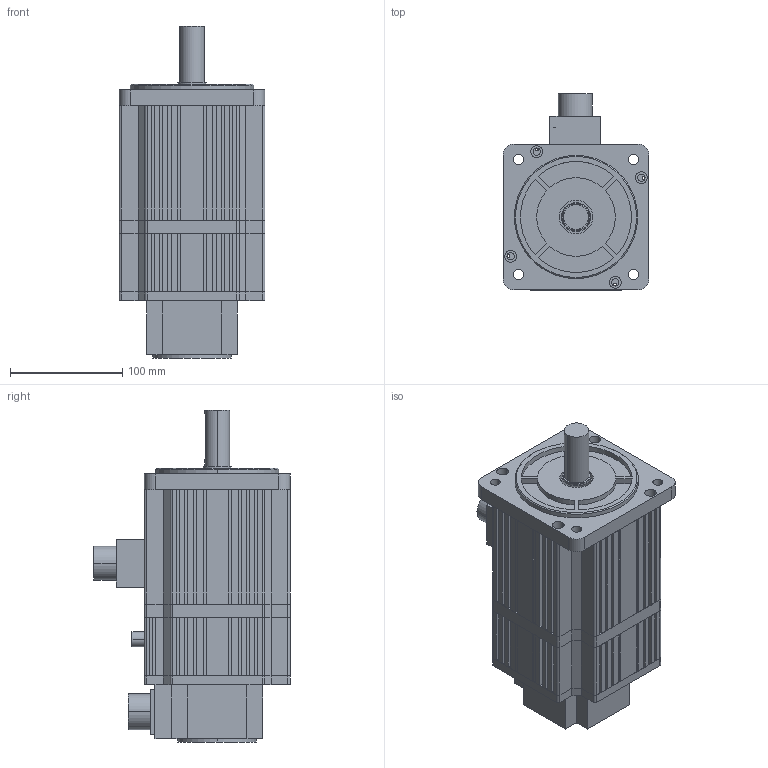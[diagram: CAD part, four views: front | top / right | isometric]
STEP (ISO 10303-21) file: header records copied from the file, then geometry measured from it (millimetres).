
FILE_DESCRIPTION (( 'STEP AP203' ), '1' );
FILE_NAME ('130-06025（带抱闸）.STEP', '2020-03-09T13:58:53', ( '' ), ( '' ), 'SwSTEP 2.0', 'SolidWorks 2016', '' );
FILE_SCHEMA (( 'CONFIG_CONTROL_DESIGN' ));
Length unit declared in the file: millimetre
Products named in the file (12): 惕掅芛; 130粣; 130瑤脣2; 130侜督ヶ裔; 130瑤脣; 130侜督惕掅傷裔; 130惕掅儂褲; 130-06025（带抱闸）; 130侜督綴裔; 130惕掅蚾饜极; 130晤鎢ん; 130隅赽 6籟
Assembly tree (11 placements, depth 3):
  130-06025（带抱闸）
    130隅赽 6籟
    130侜督ヶ裔
    130侜督綴裔
    130晤鎢ん
    130粣
    130瑤脣2
    130瑤脣
    130惕掅蚾饜极
      130惕掅儂褲
      130侜督惕掅傷裔
      惕掅芛
Bounding box: 130 x 175 x 296 mm (x, y, z)
Volume: 1306895.5 mm3; surface area: 399620.9 mm2
Topology: 14 solids, 14 shells, 826 faces, 2129 edges, 1396 vertices
Faces by surface type: plane 557, cylinder 249, cone 10, bspline 8, torus 2
Entity records: 26452 total; most frequent: CARTESIAN_POINT 4512, DIRECTION 4315, ORIENTED_EDGE 4242, EDGE_CURVE 2121, VECTOR 1537, LINE 1537, VERTEX_POINT 1396, AXIS2_PLACEMENT_3D 1389
